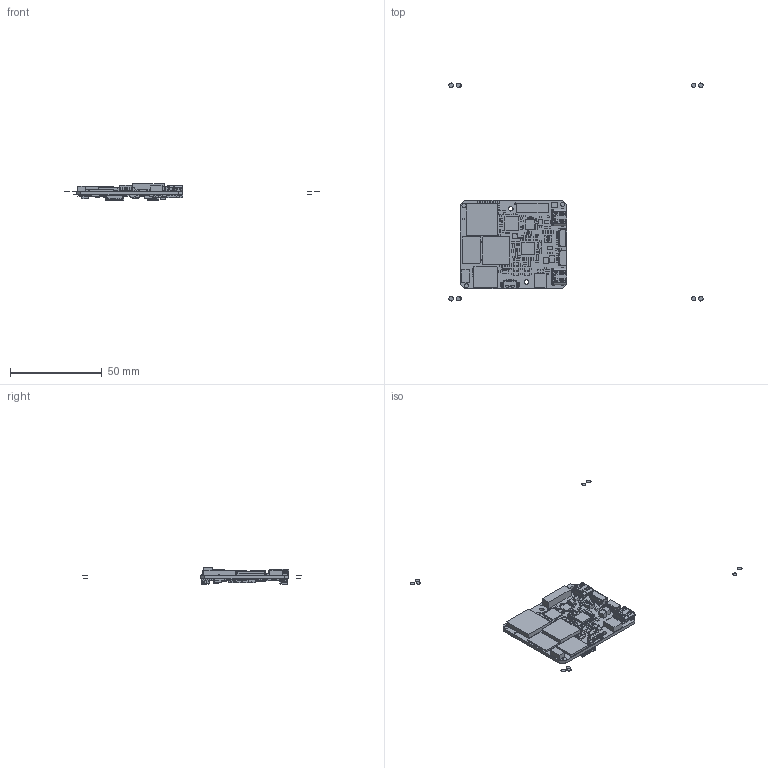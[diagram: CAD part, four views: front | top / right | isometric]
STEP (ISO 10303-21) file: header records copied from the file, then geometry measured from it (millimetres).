
FILE_DESCRIPTION(/* description */ ('PCB Design'),/* implementation_level */ '2;1');
FILE_NAME(/* name */ 'JUPITER_SB_R1',/* time_stamp */ '2022-11-15T10:22:55+02:00',/* author */ (''),/* organization */ (''),/* preprocessor_version */ 'ST-DEVELOPER v16',/* originating_system */ 'allegro_17.2S083',/* authorisation */ '');
FILE_SCHEMA (('AUTOMOTIVE_DESIGN { 1 0 10303 214 3 1 1 }'));
Products named in the file (91): JUPITER_SB_R1; BOARD_OUTLINE; COMPONENTS; C0201; TSSOP20; IND_0402_NXP; L0402; KC2520_2P5X2P0; X3_1P6X1P2; X32_3P2X2P5; DFE201612C; XAL4020; MU98K130; C0402; R0402; HUQFN16_1P6X2P4; FBGA400_17X17_08; FB0603; C1210; SM04B-SRSS-TB; QFN24_2P5X2P5_035EP; BM30B-SRDS-G-T; USL00_30L; QFN64_7P5X7P5_04EP; 0532610471; SOT23-6; CP_32_12; 5031820853; TPAD_015; SOT-323N; DX07S024JA2-V1; DFN8_3X3_05; DDC0006A; HX2QFN16_0P4_2P7X2P7; WLCSP42_0P4_2P94X2P54_SMDP; WLCSP12_0P4_1P3X1P7MM_SMDP; DFE252012C; C0805; SM05B-SRSS-TB; PSOP8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
Assembly tree (770 placements, depth 5):
  JUPITER_SB_R1
    BOARD_OUTLINE
    COMPONENTS
      C0201  x193
      TSSOP20
        product
      IND_0402_NXP  x11
      L0402
        0402HL-821XJRU
      KC2520_2P5X2P0
        product
      X3_1P6X1P2
        416F24022IKR
      X32_3P2X2P5
        ASSEMBLY
          Body
          Pins
      DFE201612C  x6
        product
      XAL4020  x2
        XFL4020-222MEC
        XFL4020-222MEC
      MU98K130  x4
      C0402  x121
      R0402  x149
      HUQFN16_1P6X2P4  x2
        ASSEMBLY
          Body
          Pins
      FBGA400_17X17_08
      FB0603  x8
        NFZ18SM121SN10D
      C1210  x5
      SM04B-SRSS-TB
        SM04B-SRSS-TB(LF)(SN)
      QFN24_2P5X2P5_035EP
        product
      BM30B-SRDS-G-T
      USL00_30L
        ASSEMBLY
          Body
          Pins
      QFN64_7P5X7P5_04EP  x2
      0532610471
        532610471
      SOT23-6  x3
      CP_32_12
      5031820853
      TPAD_015  x3
      SOT-323N  x2
        BAT54SW,115
      DX07S024JA2-V1  x2
        K3D-DX07S024JA2-V1_JAE_Proprietary
      DFN8_3X3_05
      DDC0006A  x2
      HX2QFN16_0P4_2P7X2P7
      WLCSP42_0P4_2P94X2P54_SMDP
      WLCSP12_0P4_1P3X1P7MM_SMDP
      DFE252012C
        product
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Bounding box: 138.38 x 118.69 x 9.03 mm (x, y, z)
Volume: 803.8 mm3; surface area: 15557.7 mm2
Topology: 284 solids, 993 shells, 10161 faces, 24406 edges, 15410 vertices
Faces by surface type: plane 8489, cylinder 1148, bspline 252, torus 148, sphere 80, cone 44
Full cylindrical faces by diameter (mm): 0.124 x1, 0.225 x1
Entity records: 147400 total; most frequent: CARTESIAN_POINT 25108, DIRECTION 22231, ORIENTED_EDGE 20890, EDGE_CURVE 10505, VECTOR 10333, LINE 10333, AXIS2_PLACEMENT_3D 7047, VERTEX_POINT 6907
